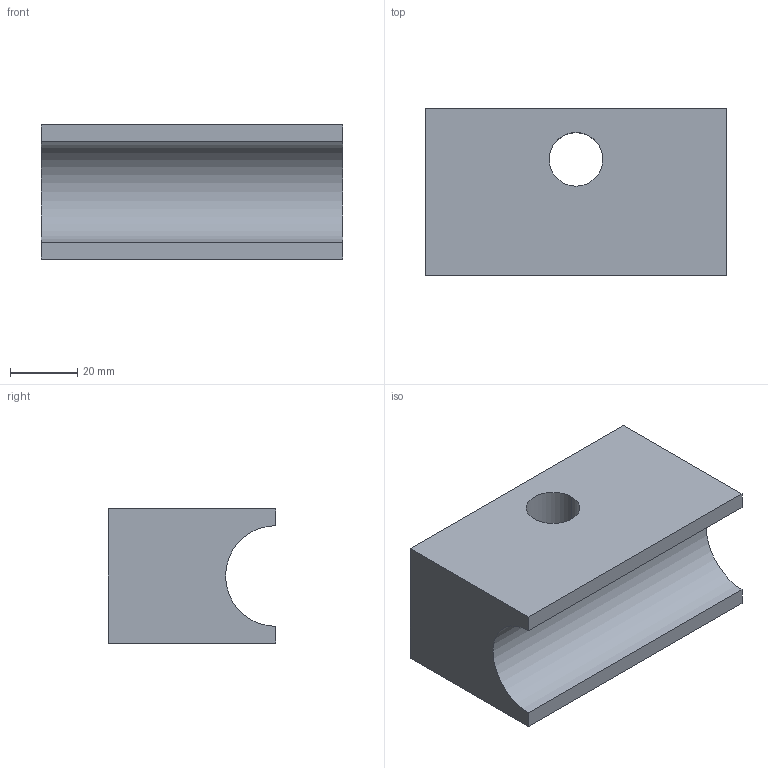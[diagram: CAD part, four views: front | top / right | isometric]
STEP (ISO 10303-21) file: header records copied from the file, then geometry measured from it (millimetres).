
FILE_DESCRIPTION (( 'STEP AP214' ), '1' );
FILE_NAME ('Andrücker30.STEP', '2016-12-28T08:47:42', ( '' ), ( '' ), 'SwSTEP 2.0', 'SolidWorks 2016', '' );
FILE_SCHEMA (( 'AUTOMOTIVE_DESIGN' ));
Length unit declared in the file: millimetre
Products named in the file (1): Andrücker30
Bounding box: 90 x 50 x 40 mm (x, y, z)
Volume: 140148.9 mm3; surface area: 22642.8 mm2
Topology: 1 solids, 1 shells, 10 faces, 24 edges, 16 vertices
Faces by surface type: plane 7, cylinder 3
Entity records: 332 total; most frequent: DIRECTION 52, CARTESIAN_POINT 51, ORIENTED_EDGE 48, EDGE_CURVE 24, VECTOR 18, LINE 18, AXIS2_PLACEMENT_3D 17, VERTEX_POINT 16
